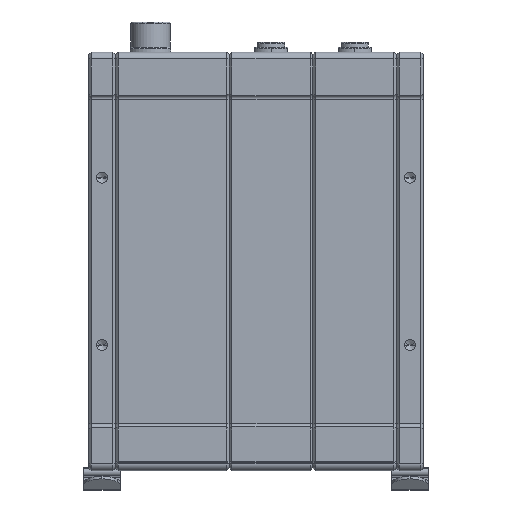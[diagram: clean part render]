
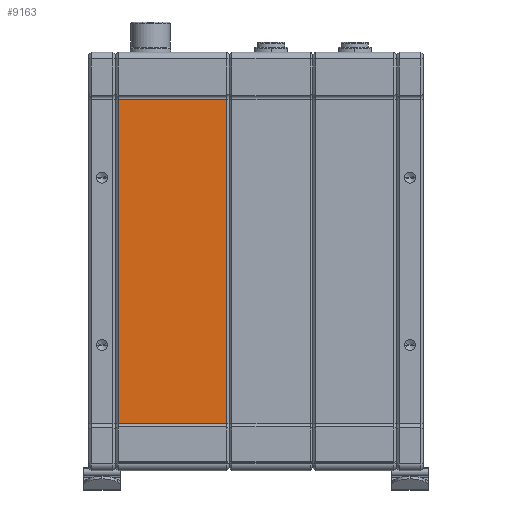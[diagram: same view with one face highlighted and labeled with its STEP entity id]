
A CAD part, left-side view. The second image highlights one B-rep face of the part: STEP entity #9163.
In plain terms, the highlighted planar face has unit normal (-1, 0, 0).
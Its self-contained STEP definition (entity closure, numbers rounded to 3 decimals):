
#3985=DIRECTION('',(0.,0.,-1.));
#3986=VECTOR('',#3985,97.);
#3987=CARTESIAN_POINT('',(-44.,33.2,48.5));
#3988=LINE('',#3987,#3986);
#3992=DIRECTION('',(0.,1.,0.));
#3993=VECTOR('',#3992,32.4);
#3994=CARTESIAN_POINT('',(-44.,0.8,48.5));
#3995=LINE('',#3994,#3993);
#3999=DIRECTION('',(0.,0.,1.));
#4000=VECTOR('',#3999,97.);
#4001=CARTESIAN_POINT('',(-44.,0.8,-48.5));
#4002=LINE('',#4001,#4000);
#4006=DIRECTION('',(0.,1.,0.));
#4007=VECTOR('',#4006,32.4);
#4008=CARTESIAN_POINT('',(-44.,0.8,-48.5));
#4009=LINE('',#4008,#4007);
#6096=CARTESIAN_POINT('',(-44.,33.2,-48.5));
#6098=VERTEX_POINT('',#6096);
#6100=CARTESIAN_POINT('',(-44.,33.2,48.5));
#6101=VERTEX_POINT('',#6100);
#6148=CARTESIAN_POINT('',(-44.,0.8,-48.5));
#6149=VERTEX_POINT('',#6148);
#6152=CARTESIAN_POINT('',(-44.,0.8,48.5));
#6153=VERTEX_POINT('',#6152);
#9150=CARTESIAN_POINT('',(-44.,0.,-49.5));
#9151=DIRECTION('',(1.,0.,0.));
#9152=DIRECTION('',(0.,0.,1.));
#9153=AXIS2_PLACEMENT_3D('',#9150,#9151,#9152);
#9154=PLANE('',#9153);
#9155=ORIENTED_EDGE('',*,*,#9141,.F.);
#9157=ORIENTED_EDGE('',*,*,#9156,.F.);
#9159=ORIENTED_EDGE('',*,*,#9158,.F.);
#9160=ORIENTED_EDGE('',*,*,#9115,.T.);
#9161=EDGE_LOOP('',(#9155,#9157,#9159,#9160));
#9162=FACE_OUTER_BOUND('',#9161,.F.);
#9115=EDGE_CURVE('',#6149,#6098,#4009,.T.);
#9141=EDGE_CURVE('',#6101,#6098,#3988,.T.);
#9156=EDGE_CURVE('',#6153,#6101,#3995,.T.);
#9158=EDGE_CURVE('',#6149,#6153,#4002,.T.);
#9163=ADVANCED_FACE('',(#9162),#9154,.F.);
